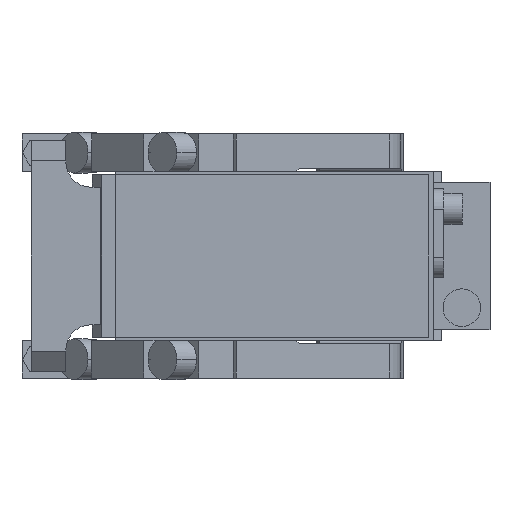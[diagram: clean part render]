
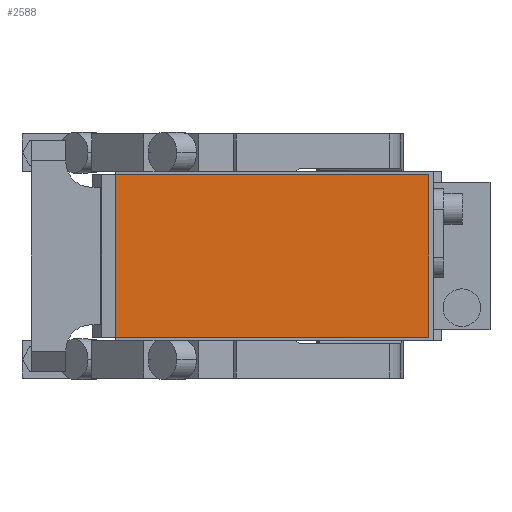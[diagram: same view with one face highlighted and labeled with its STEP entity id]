
A CAD part, front view. The second image highlights one B-rep face of the part: STEP entity #2588.
In plain terms, the highlighted planar face has unit normal (0, -1, 0).
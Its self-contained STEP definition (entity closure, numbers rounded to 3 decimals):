
#64 = DIRECTION ( 'NONE',  ( 0., 0., 1. ) ) ;
#819 = VECTOR ( 'NONE', #3136, 1000. ) ;
#1058 = CARTESIAN_POINT ( 'NONE',  ( -19., -286.5, 26. ) ) ;
#1105 = AXIS2_PLACEMENT_3D ( 'NONE', #15227, #3471, #7926 ) ;
#1693 = LINE ( 'NONE', #6416, #4564 ) ;
#2570 = EDGE_CURVE ( 'NONE', #12118, #4068, #1693, .T. ) ;
#2588 = ADVANCED_FACE ( 'NONE', ( #3234 ), #11773, .T. ) ;
#2705 = LINE ( 'NONE', #7343, #13088 ) ;
#3136 = DIRECTION ( 'NONE',  ( 1., 0., 0. ) ) ;
#3234 = FACE_OUTER_BOUND ( 'NONE', #3698, .T. ) ;
#3471 = DIRECTION ( 'NONE',  ( 0., -1., 0. ) ) ;
#3649 = ORIENTED_EDGE ( 'NONE', *, *, #5894, .T. ) ;
#3698 = EDGE_LOOP ( 'NONE', ( #3649, #11270, #8484, #11520 ) ) ;
#3870 = DIRECTION ( 'NONE',  ( 0., 0., -1. ) ) ;
#4068 = VERTEX_POINT ( 'NONE', #1058 ) ;
#4564 = VECTOR ( 'NONE', #11170, 1000. ) ;
#5045 = VERTEX_POINT ( 'NONE', #14134 ) ;
#5894 = EDGE_CURVE ( 'NONE', #4068, #5045, #2705, .T. ) ;
#6416 = CARTESIAN_POINT ( 'NONE',  ( -19., -286.5, 26. ) ) ;
#7244 = CARTESIAN_POINT ( 'NONE',  ( 81., -286.5, 26. ) ) ;
#7343 = CARTESIAN_POINT ( 'NONE',  ( -19., -286.5, 26. ) ) ;
#7926 = DIRECTION ( 'NONE',  ( 0., 0., -1. ) ) ;
#8484 = ORIENTED_EDGE ( 'NONE', *, *, #8755, .T. ) ;
#8755 = EDGE_CURVE ( 'NONE', #12996, #12118, #11926, .T. ) ;
#9126 = VECTOR ( 'NONE', #64, 1000. ) ;
#10143 = CARTESIAN_POINT ( 'NONE',  ( -19., -286.5, -26. ) ) ;
#10196 = CARTESIAN_POINT ( 'NONE',  ( 81., -286.5, -26. ) ) ;
#10382 = EDGE_CURVE ( 'NONE', #5045, #12996, #11286, .T. ) ;
#11170 = DIRECTION ( 'NONE',  ( -1., 0., 0. ) ) ;
#11270 = ORIENTED_EDGE ( 'NONE', *, *, #10382, .T. ) ;
#11286 = LINE ( 'NONE', #10143, #819 ) ;
#11520 = ORIENTED_EDGE ( 'NONE', *, *, #2570, .T. ) ;
#11773 = PLANE ( 'NONE',  #1105 ) ;
#11926 = LINE ( 'NONE', #7244, #9126 ) ;
#12118 = VERTEX_POINT ( 'NONE', #14599 ) ;
#12996 = VERTEX_POINT ( 'NONE', #10196 ) ;
#13088 = VECTOR ( 'NONE', #3870, 1000. ) ;
#14134 = CARTESIAN_POINT ( 'NONE',  ( -19., -286.5, -26. ) ) ;
#14599 = CARTESIAN_POINT ( 'NONE',  ( 81., -286.5, 26. ) ) ;
#15227 = CARTESIAN_POINT ( 'NONE',  ( 0., -286.5, 0. ) ) ;
